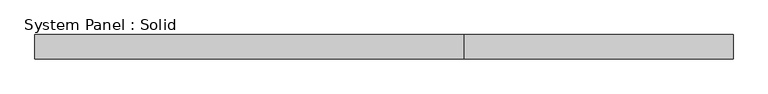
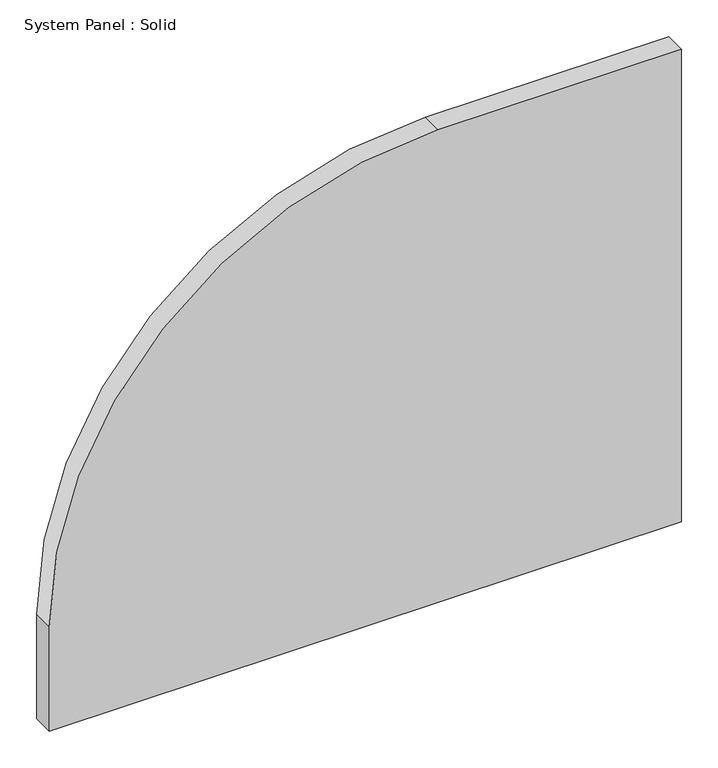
"""IFC4 building model written with IfcOpenShell, lengths in millimetres: plate geometry, System Panel : Solid."""

from ifc_helpers import new_model, si_unit, point, frame, frame_2d, origin, place, context, project, spatial, polyline, circle_curve, trimmed, segment, composite_curve, outline, extrude, source, transform, mapped, element, save


def system_panel_solid_20d59501(model_context):
    return source(origin(), model_context, "Body", "SweptSolid", [
        extrude(outline(composite_curve([segment(polyline([(0.0, -500.0000002), (0.0, 500.0000002), (790.0, 500.0000002), (790.0, 114.9999998)]), True, "CONTINUOUS"), segment(trimmed(circle_curve(frame_2d((175.0, 114.9999998)), 615.0), [point((790.0, 114.9999998))], [point((175.0, -500.0000002))], False, "CARTESIAN"), True, "CONTINUOUS"), segment(polyline([(175.0, -500.0000002), (0.0, -500.0000002)]), True, "CONTINUOUS")], self_intersect=False)), frame((0.0, -2.5, 0.0), z_axis=(0.0, 1.0, 0.0), x_axis=(0.0, 0.0, 1.0)), (0.0, 0.0, 1.0), 35.0),
    ])


if __name__ == "__main__":
    model = new_model("IFC4")
    model_context = context("Model", 3, world=origin())
    ifc_project = project(units=[si_unit("LENGTHUNIT", "METRE", prefix="MILLI")], contexts=[model_context])
    site = spatial("IfcSite", under=ifc_project)
    building = spatial("IfcBuilding", under=site)
    placement = place(None, origin())
    system_panel_solid_shape = system_panel_solid_20d59501(model_context)
    element("IfcPlate", 1, ObjectType="System Panel : Solid", at=placement, inside=building, context=model_context, shape_type="MappedRepresentation", body=[
        mapped(system_panel_solid_shape, transform((0.0, 0.0, 0.0), x_axis=(1.0, 0.0, 0.0), y_axis=(0.0, 1.0, 0.0), z_axis=(0.0, 0.0, 1.0))),
    ])
    save(model, "model.ifc")
